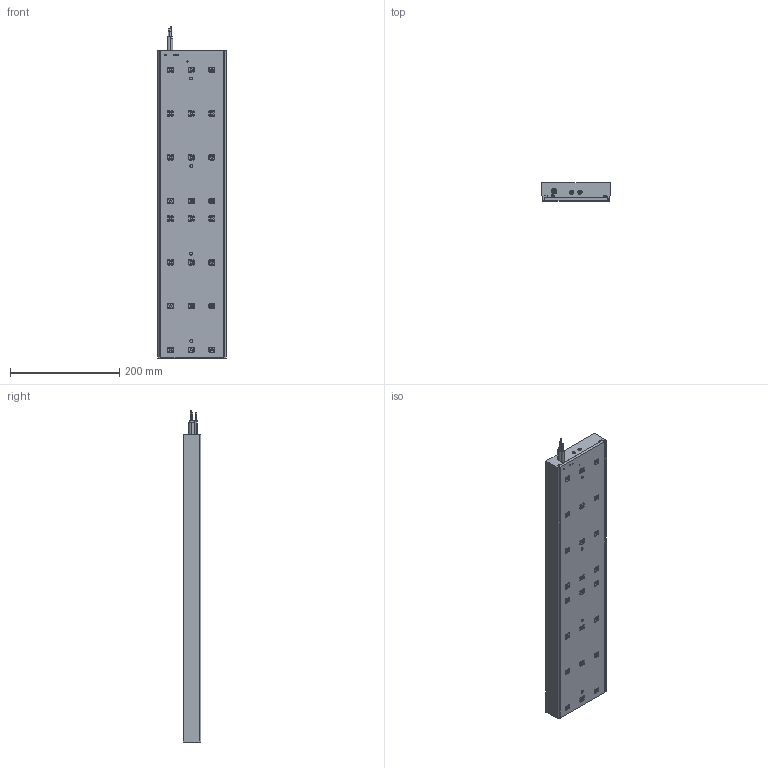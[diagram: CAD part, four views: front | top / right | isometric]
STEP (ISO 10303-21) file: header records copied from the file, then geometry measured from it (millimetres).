
FILE_DESCRIPTION (( 'STEP AP203' ), '1' );
FILE_NAME ('IC30-124 assembly3D.STEP', '2020-10-28T12:07:18', ( '' ), ( '' ), 'SwSTEP 2.0', 'SolidWorks 2018', '' );
FILE_SCHEMA (( 'CONFIG_CONTROL_DESIGN' ));
Length unit declared in the file: millimetre
Products named in the file (14): IC30-124 housing; IC30-124 resin; IC-124 dovetail rounded; power cable IC124 10.1mm 3D; M3 nut hall module for 3D CU; sensor cable 3D; IC30-124 assembly3D
Assembly tree (14 placements, depth 2):
  IC30-124 assembly3D
    IC30-124 housing
    IC30-124 resin
    IC-124 dovetail rounded
    IC-124 dovetail rounded
    M3 nut hall module for 3D CU  x2
    power cable IC124 10.1mm 3D
    sensor cable 3D
    IC-124 dovetail rounded
    IC-124 dovetail rounded
    IC-124 dovetail rounded
    IC-124 dovetail rounded
    IC-124 dovetail rounded
    IC-124 dovetail rounded
Bounding box: 125.15 x 32.4 x 607 mm (x, y, z)
Volume: 2283249.2 mm3; surface area: 368854.7 mm2
Topology: 14 solids, 14 shells, 1086 faces, 3075 edges, 2018 vertices
Faces by surface type: plane 542, cylinder 506, torus 26, sphere 12
Entity records: 35744 total; most frequent: CARTESIAN_POINT 6061, DIRECTION 6046, ORIENTED_EDGE 5910, EDGE_CURVE 2955, AXIS2_PLACEMENT_3D 2071, VERTEX_POINT 1958, LINE 1904, VECTOR 1904
